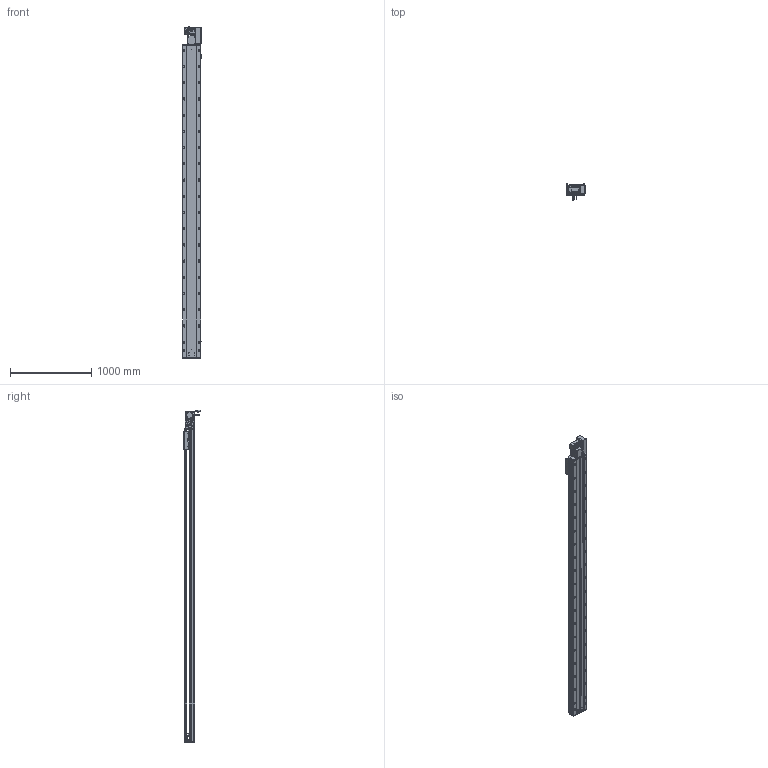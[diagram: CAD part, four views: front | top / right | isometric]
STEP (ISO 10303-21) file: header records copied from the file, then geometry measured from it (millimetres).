
FILE_DESCRIPTION (( 'STEP AP203' ), '1' );
FILE_NAME ('RY220-T-300-RK.SLDASM_3500.step', '2022-07-25T08:26:33', ( '' ), ( '' ), 'SwSTEP 2.0', 'SolidWorks 2016', '' );
FILE_SCHEMA (( 'CONFIG_CONTROL_DESIGN' ));
Length unit declared in the file: millimetre
Products named in the file (14): RY220翋肮祭謫釱; RY220-T菁釱-300_3500; RY220圉猾敕々湍臏賑輸; RY220-俋离672覜茼んえ; RY220-T-300-RK.SLDASM_3500; RY220-T-湍謫欶(鍼踢); RY220-T-300-奻裔啣_3500; RY220翋肮祭謫裔啣; 110A-T-肮祭謫釱傷裔; 怢湛750W_ECMA-CX0807ES; 覜茼ん672; RY220-同步轮副支撑座6304×2; RY220-T-蛌殏萇儂假蚾啣(750W); 滅袉蝶18-15
Assembly tree (18 placements, depth 2):
  RY220-T-300-RK.SLDASM_3500
    RY220-T菁釱-300_3500
    RY220翋肮祭謫釱
    覜茼ん672  x3
    RY220圉猾敕々湍臏賑輸
    RY220-T-300-奻裔啣_3500
    RY220-俋离672覜茼んえ
    滅袉蝶18-15  x3
    RY220翋肮祭謫裔啣  x2
    110A-T-肮祭謫釱傷裔
    怢湛750W_ECMA-CX0807ES
    RY220-T-湍謫欶(鍼踢)
    RY220-T-蛌殏萇儂假蚾啣(750W)
    RY220-同步轮副支撑座6304×2
Bounding box: 238.7 x 198.77 x 4095.24 mm (x, y, z)
Volume: 28437650.5 mm3; surface area: 8854049.8 mm2
Topology: 19 solids, 19 shells, 3134 faces, 8679 edges, 5416 vertices
Faces by surface type: cylinder 1570, plane 1069, cone 413, bspline 56, sphere 16, torus 10
Entity records: 104659 total; most frequent: CARTESIAN_POINT 29445, ORIENTED_EDGE 15514, DIRECTION 15072, EDGE_CURVE 7757, AXIS2_PLACEMENT_3D 5472, VERTEX_POINT 5040, LINE 4128, VECTOR 4128
